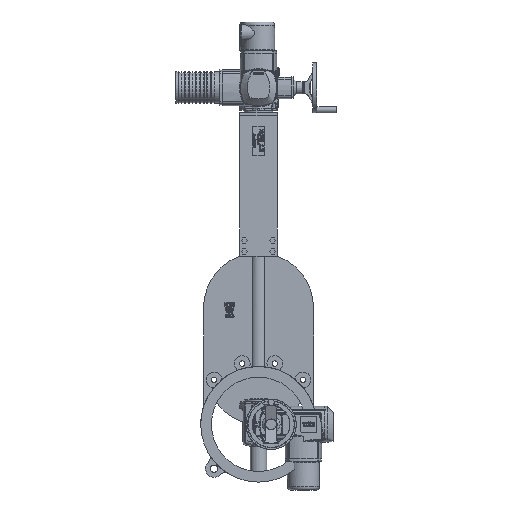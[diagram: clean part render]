
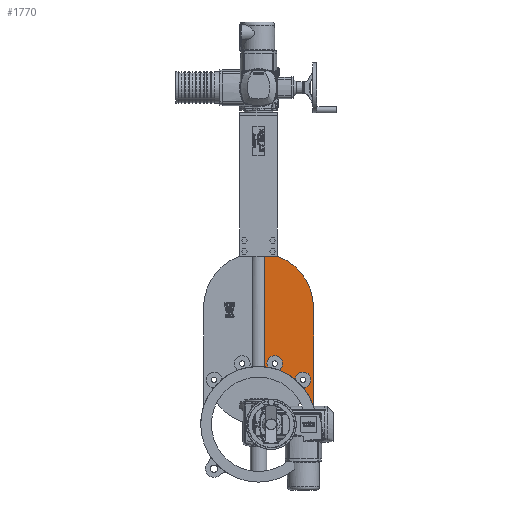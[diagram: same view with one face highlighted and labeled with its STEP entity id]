
A CAD part, front view. The second image highlights one B-rep face of the part: STEP entity #1770.
In plain terms, the highlighted planar face has unit normal (0, -1, 0).
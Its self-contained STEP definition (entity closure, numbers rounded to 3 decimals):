
#1770 = ADVANCED_FACE( '', ( #4842 ), #4843, .T. );
#4842 = FACE_OUTER_BOUND( '', #10091, .T. );
#4843 = PLANE( '', #10092 );
#10091 = EDGE_LOOP( '', ( #21945, #21946, #21947, #21948, #21949, #21950, #21951, #21952, #21953 ) );
#10092 = AXIS2_PLACEMENT_3D( '', #21954, #21955, #21956 );
#21945 = ORIENTED_EDGE( '', *, *, #36148, .F. );
#21946 = ORIENTED_EDGE( '', *, *, #36149, .T. );
#21947 = ORIENTED_EDGE( '', *, *, #36150, .F. );
#21948 = ORIENTED_EDGE( '', *, *, #36151, .T. );
#21949 = ORIENTED_EDGE( '', *, *, #36152, .F. );
#21950 = ORIENTED_EDGE( '', *, *, #36153, .F. );
#21951 = ORIENTED_EDGE( '', *, *, #36154, .F. );
#21952 = ORIENTED_EDGE( '', *, *, #36155, .F. );
#21953 = ORIENTED_EDGE( '', *, *, #36156, .T. );
#21954 = CARTESIAN_POINT( '', ( 0., -19., 0. ) );
#21955 = DIRECTION( '', ( 0., -1., 0. ) );
#21956 = DIRECTION( '', ( 0., 0., -1. ) );
#36148 = EDGE_CURVE( '', #41521, #41522, #41523, .T. );
#36149 = EDGE_CURVE( '', #41521, #41524, #41525, .F. );
#36150 = EDGE_CURVE( '', #41526, #41524, #41527, .T. );
#36151 = EDGE_CURVE( '', #41526, #41528, #41529, .F. );
#36152 = EDGE_CURVE( '', #41530, #41528, #41531, .T. );
#36153 = EDGE_CURVE( '', #41532, #41530, #41533, .T. );
#36154 = EDGE_CURVE( '', #41534, #41532, #41535, .T. );
#36155 = EDGE_CURVE( '', #41536, #41534, #41537, .T. );
#36156 = EDGE_CURVE( '', #41536, #41522, #41538, .F. );
#41521 = VERTEX_POINT( '', #51921 );
#41522 = VERTEX_POINT( '', #51922 );
#41523 = CIRCLE( '', #51923, 184. );
#41524 = VERTEX_POINT( '', #51924 );
#41525 = CIRCLE( '', #51925, 25. );
#41526 = VERTEX_POINT( '', #51926 );
#41527 = CIRCLE( '', #51927, 184. );
#41528 = VERTEX_POINT( '', #51928 );
#41529 = CIRCLE( '', #51929, 25. );
#41530 = VERTEX_POINT( '', #51930 );
#41531 = CIRCLE( '', #51931, 184. );
#41532 = VERTEX_POINT( '', #51932 );
#41533 = LINE( '', #51933, #51934 );
#41534 = VERTEX_POINT( '', #51935 );
#41535 = CIRCLE( '', #51936, 175. );
#41536 = VERTEX_POINT( '', #51937 );
#41537 = LINE( '', #51938, #51939 );
#41538 = LINE( '', #51940, #51941 );
#51921 = CARTESIAN_POINT( '', ( 29.609, -19., 181.602 ) );
#51922 = CARTESIAN_POINT( '', ( 19.183, -19., 182.997 ) );
#51923 = AXIS2_PLACEMENT_3D( '', #71643, #71644, #71645 );
#51924 = CARTESIAN_POINT( '', ( 65.159, -19., 172.077 ) );
#51925 = AXIS2_PLACEMENT_3D( '', #71646, #71647, #71648 );
#51926 = CARTESIAN_POINT( '', ( 116.443, -19., 142.467 ) );
#51927 = AXIS2_PLACEMENT_3D( '', #71649, #71650, #71651 );
#51928 = CARTESIAN_POINT( '', ( 142.467, -19., 116.443 ) );
#51929 = AXIS2_PLACEMENT_3D( '', #71652, #71653, #71654 );
#51930 = CARTESIAN_POINT( '', ( 175., -19., 56.842 ) );
#51931 = AXIS2_PLACEMENT_3D( '', #71655, #71656, #71657 );
#51932 = CARTESIAN_POINT( '', ( 175., -19., 370.607 ) );
#51933 = CARTESIAN_POINT( '', ( 175., -19., 56.842 ) );
#51934 = VECTOR( '', #71658, 1000. );
#51935 = CARTESIAN_POINT( '', ( 60., -19., 535. ) );
#51936 = AXIS2_PLACEMENT_3D( '', #71659, #71660, #71661 );
#51937 = CARTESIAN_POINT( '', ( 19.183, -19., 535. ) );
#51938 = CARTESIAN_POINT( '', ( -60., -19., 535. ) );
#51939 = VECTOR( '', #71662, 1000. );
#51940 = CARTESIAN_POINT( '', ( 19.183, -19., 175. ) );
#51941 = VECTOR( '', #71663, 1000. );
#71643 = CARTESIAN_POINT( '', ( 0., -19., 0. ) );
#71644 = DIRECTION( '', ( 0., -1., 0. ) );
#71645 = DIRECTION( '', ( 1., 0., 0. ) );
#71646 = CARTESIAN_POINT( '', ( 51.764, -19., 193.185 ) );
#71647 = DIRECTION( '', ( 0., -1., 0. ) );
#71648 = DIRECTION( '', ( 0., 0., -1. ) );
#71649 = CARTESIAN_POINT( '', ( 0., -19., 0. ) );
#71650 = DIRECTION( '', ( 0., -1., 0. ) );
#71651 = DIRECTION( '', ( 1., 0., 0. ) );
#71652 = CARTESIAN_POINT( '', ( 141.421, -19., 141.421 ) );
#71653 = DIRECTION( '', ( 0., -1., 0. ) );
#71654 = DIRECTION( '', ( 0., 0., -1. ) );
#71655 = CARTESIAN_POINT( '', ( 0., -19., 0. ) );
#71656 = DIRECTION( '', ( 0., -1., 0. ) );
#71657 = DIRECTION( '', ( 1., 0., 0. ) );
#71658 = DIRECTION( '', ( 0., 0., -1. ) );
#71659 = CARTESIAN_POINT( '', ( 0., -19., 370.607 ) );
#71660 = DIRECTION( '', ( 0., 1., 0. ) );
#71661 = DIRECTION( '', ( -1., 0., 0. ) );
#71662 = DIRECTION( '', ( 1., 0., 0. ) );
#71663 = DIRECTION( '', ( 0., 0., 1. ) );
